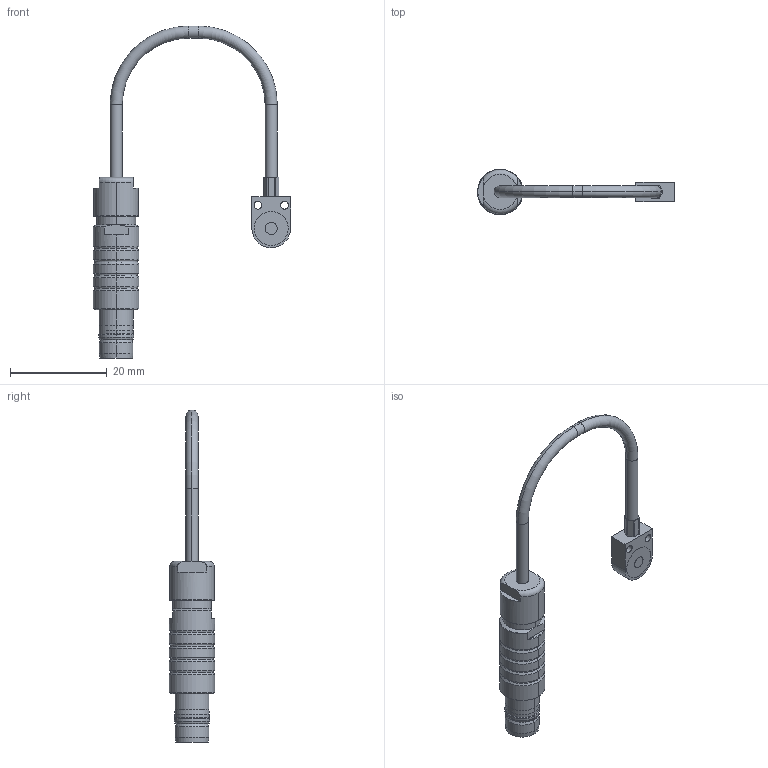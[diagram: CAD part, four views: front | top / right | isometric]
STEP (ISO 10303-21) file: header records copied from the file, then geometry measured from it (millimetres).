
FILE_DESCRIPTION((''),'2;1');
FILE_NAME('6610075-A_ASM','2009-07-30T',('11000065'),(''),'PRO/ENGINEER BY PARAMETRIC TECHNOLOGY CORPORATION, 2008490','PRO/ENGINEER BY PARAMETRIC TECHNOLOGY CORPORATION, 2008490','');
FILE_SCHEMA(('AUTOMOTIVE_DESIGN { 1 2 10303 214 0 1 1 1 }'));
Length unit declared in the file: millimetre
Products named in the file (3): CSH0_2FL; 0323139; 6610075-A_ASM
Assembly tree (2 placements, depth 2):
  6610075-A_ASM
    CSH0_2FL
    0323139
Bounding box: 40.7 x 9.4 x 68.51 mm (x, y, z)
Volume: 2731.5 mm3; surface area: 2320.9 mm2
Topology: 2 solids, 2 shells, 512 faces, 1380 edges, 898 vertices
Faces by surface type: plane 409, cylinder 49, torus 26, cone 26, bspline 2
Entity records: 20533 total; most frequent: CARTESIAN_POINT 2994, ORIENTED_EDGE 2760, DIRECTION 2558, PRESENTATION_STYLE_ASSIGNMENT 1407, STYLED_ITEM 1383, CURVE_STYLE 1380, EDGE_CURVE 1380, VECTOR 1200
